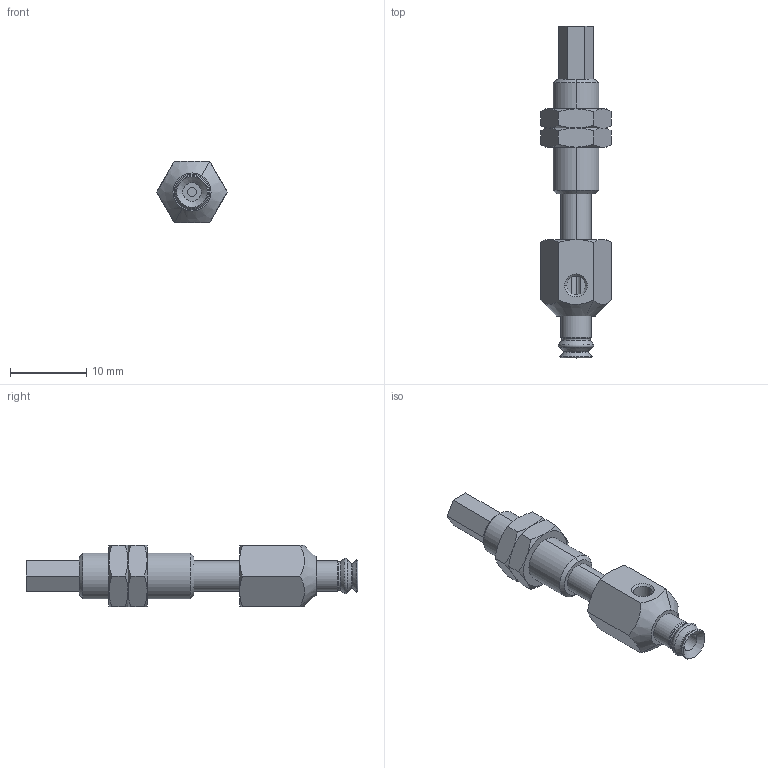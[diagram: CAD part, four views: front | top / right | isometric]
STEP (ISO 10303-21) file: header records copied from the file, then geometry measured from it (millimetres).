
FILE_DESCRIPTION(('STEP AP203'),'1');
FILE_NAME('.stp','2025-04-23T06:56:29',(' '),(' '),'Spatial InterOp 3D',' ',' ');
FILE_SCHEMA(('CONFIG_CONTROL_DESIGN'));
Length unit declared in the file: millimetre
Products named in the file (6): BNABPJYS-4-6-※; _CONNECTOR_1_5A_6; _Nut_1_5A_6_s; _NAPFTS_1_5A_6_FBODY; _NAPFTS_1_5A_6_MBODY; BPJG-4-※
Assembly tree (6 placements, depth 2):
  BNABPJYS-4-6-※
    _CONNECTOR_1_5A_6
    _Nut_1_5A_6_s  x2
    _NAPFTS_1_5A_6_FBODY
    _NAPFTS_1_5A_6_MBODY
    BPJG-4-※
Bounding box: 9.24 x 43.5 x 8 mm (x, y, z)
Volume: 1270.6 mm3; surface area: 1935.2 mm2
Topology: 6 solids, 6 shells, 152 faces, 336 edges, 200 vertices
Faces by surface type: cone 61, plane 55, cylinder 26, torus 10
Full cylindrical faces by diameter (mm): 2 x1, 2.4 x1, 3 x1, 4 x1
Entity records: 3721 total; most frequent: CARTESIAN_POINT 754, DIRECTION 579, ORIENTED_EDGE 508, EDGE_CURVE 254, AXIS2_PLACEMENT_3D 242, VERTEX_POINT 161, EDGE_LOOP 159, FACE_OUTER_BOUND 138
